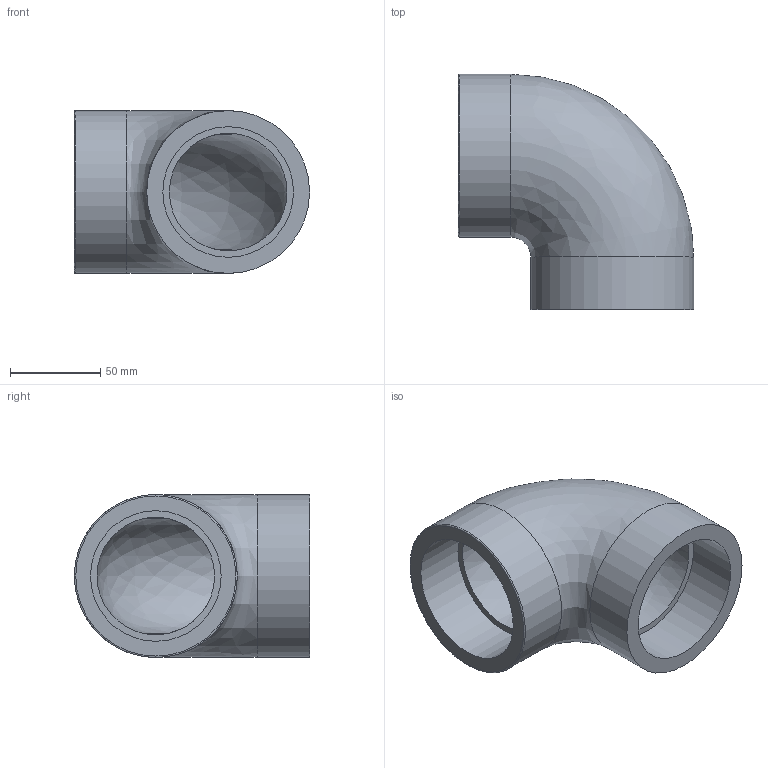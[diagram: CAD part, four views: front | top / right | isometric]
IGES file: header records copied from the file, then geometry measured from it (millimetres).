
Global section: file name: 050501025.ipt; native system: Autodesk Inventor 2015; preprocessor: unknown; author: KIM; date: 20171207.164658; units: millimetre
Bounding box: 130 x 130 x 90 mm (x, y, z)
Volume: 398999 mm3; surface area: 78392.9 mm2
Topology: 1 solids, 1 shells, 11 faces, 25 edges, 18 vertices
Faces by surface type: revolution 5, plane 4, cylinder 2
Full cylindrical faces by diameter (mm): 90 x2
